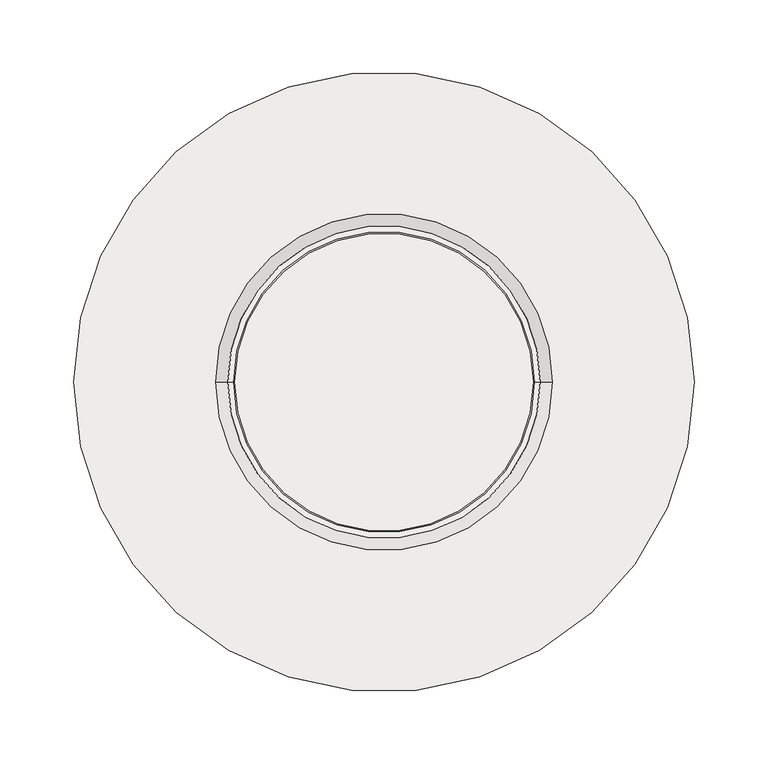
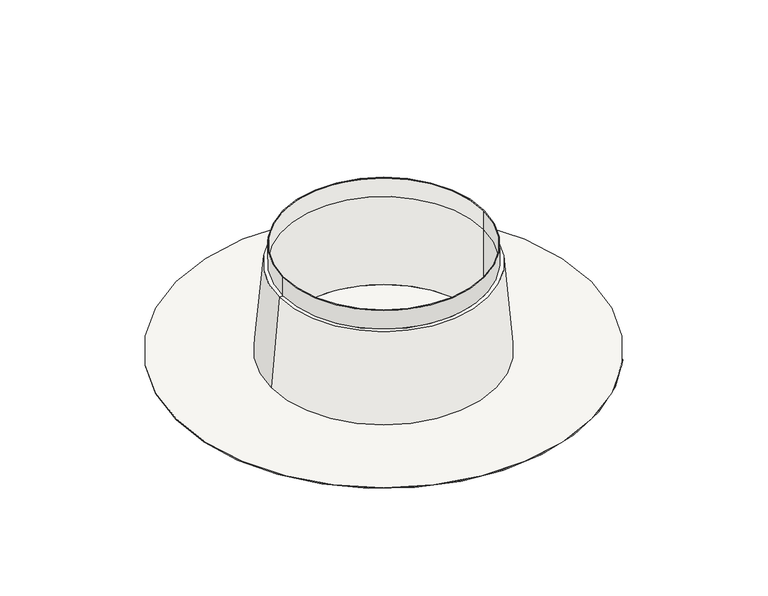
"""IFC4 building model written with IfcOpenShell, lengths in millimetres: covering geometry, NLRS_57_GM_WPB_weather slate flat roof_M&G : ø204."""

from ifc_helpers import new_model, si_unit, frame, origin, origin_with_axes, place, context, project, spatial, polyline, circle_curve, source, transform, mapped, element, save
from ifc_brep_helpers import plane_surface, cylinder_surface, revolved_surface, advanced_brep


def covering_65d68dae(model_context):
    return source(origin(), model_context, "Body", "AdvancedBrep", [
        advanced_brep(
        [(-210.0, 0.0, 1.0), (210.0, 0.0, 1.0), (-113.9739344, 0.0, 1.0), (113.9739344, 0.0, 1.0), (100.9, 0.0, 1.0), (-100.9, 0.0, 1.0), (-210.0, 0.0, 0.0), (210.0, 0.0, 0.0), (-105.75, 0.0, 95.0), (105.75, 0.0, 95.0), (-101.9, 0.0, 95.0), (101.9, 0.0, 95.0), (-100.9, 0.0, 95.0), (100.9, 0.0, 95.0), (-101.9, 0.0, 115.0), (101.9, 0.0, 115.0), (-100.9, 0.0, 115.0), (100.9, 0.0, 115.0)],
        [
            (0, 1, circle_curve(frame((0.0, 0.0, 1.0), z_axis=(0.0, 0.0, 1.0), x_axis=(1.0, 0.0, 0.0)), 210.0)),
            (1, 0, circle_curve(frame((0.0, 0.0, 1.0), z_axis=(0.0, 0.0, 1.0), x_axis=(1.0, 0.0, 0.0)), 210.0)),
            (2, 3, circle_curve(frame((0.0, 0.0, 1.0), z_axis=(0.0, 0.0, -1.0), x_axis=(-1.0, 0.0, 0.0)), 113.9739344)),
            (3, 2, circle_curve(frame((0.0, 0.0, 1.0), z_axis=(0.0, 0.0, -1.0), x_axis=(-1.0, 0.0, 0.0)), 113.9739344)),
            (4, 5, circle_curve(frame((0.0, 0.0, 1.0), z_axis=(0.0, 0.0, 1.0), x_axis=(-1.0, 0.0, 0.0)), 100.9)),
            (5, 4, circle_curve(frame((0.0, 0.0, 1.0), z_axis=(0.0, 0.0, 1.0), x_axis=(-1.0, 0.0, 0.0)), 100.9)),
            (6, 7, circle_curve(frame((0.0, 0.0, 0.0), z_axis=(0.0, 0.0, -1.0), x_axis=(1.0, 0.0, 0.0)), 210.0)),
            (7, 6, circle_curve(frame((0.0, 0.0, 0.0), z_axis=(0.0, 0.0, -1.0), x_axis=(1.0, 0.0, 0.0)), 210.0)),
            (0, 6),
            (7, 1),
            (2, 8),
            (8, 9, circle_curve(frame((0.0, 0.0, 95.0), z_axis=(0.0, 0.0, -1.0), x_axis=(-1.0, 0.0, 0.0)), 105.75)),
            (9, 3),
            (9, 8, circle_curve(frame((0.0, 0.0, 95.0), z_axis=(0.0, 0.0, -1.0), x_axis=(-1.0, 0.0, 0.0)), 105.75)),
            (8, 10),
            (10, 11, circle_curve(frame((0.0, 0.0, 95.0), z_axis=(0.0, 0.0, -1.0), x_axis=(1.0, 0.0, 0.0)), 101.9)),
            (11, 9),
            (11, 10, circle_curve(frame((0.0, 0.0, 95.0), z_axis=(0.0, 0.0, -1.0), x_axis=(1.0, 0.0, 0.0)), 101.9)),
            (12, 5),
            (4, 13),
            (13, 12, circle_curve(frame((0.0, 0.0, 95.0), z_axis=(0.0, 0.0, 1.0), x_axis=(-1.0, 0.0, 0.0)), 100.9)),
            (12, 13, circle_curve(frame((0.0, 0.0, 95.0), z_axis=(0.0, 0.0, 1.0), x_axis=(-1.0, 0.0, 0.0)), 100.9)),
            (14, 15, circle_curve(frame((0.0, 0.0, 115.0), z_axis=(0.0, 0.0, 1.0), x_axis=(1.0, 0.0, 0.0)), 101.9)),
            (15, 14, circle_curve(frame((0.0, 0.0, 115.0), z_axis=(0.0, 0.0, 1.0), x_axis=(1.0, 0.0, 0.0)), 101.9)),
            (16, 17, circle_curve(frame((0.0, 0.0, 115.0), z_axis=(0.0, 0.0, -1.0), x_axis=(1.0, 0.0, 0.0)), 100.9)),
            (17, 16, circle_curve(frame((0.0, 0.0, 115.0), z_axis=(0.0, 0.0, -1.0), x_axis=(1.0, 0.0, 0.0)), 100.9)),
            (14, 10),
            (11, 15),
            (16, 12),
            (13, 17),
        ],
        [
            plane_surface(frame((210.0, 0.0, 1.0), z_axis=(0.0, 0.0, 1.0), x_axis=(0.0, 1.0, 0.0))),
            plane_surface(frame((210.0, 0.0, 0.0), z_axis=(0.0, 0.0, -1.0), x_axis=(0.0, -1.0, 0.0))),
            cylinder_surface(origin_with_axes(), 210.0),
            revolved_surface(polyline([(-105.75, 0.0, 95.0), (-113.9739344, 0.0, 1.0)]), (0.0, 0.0, 2179.3150031), (0.0, 0.0, -1.0)),
            plane_surface(frame((0.0, 0.0, 95.0), z_axis=(0.0, 0.0, 1.0), x_axis=(-1.0, 0.0, 0.0))),
            revolved_surface(polyline([(-100.9, 0.0, 1.0), (-100.9, 0.0, 95.0)]), (0.0, 0.0, 2179.3150031), (0.0, 0.0, -1.0)),
            plane_surface(frame((101.9, 0.0, 115.0), z_axis=(0.0, 0.0, 1.0), x_axis=(0.0, 1.0, 0.0))),
            cylinder_surface(frame((0.0, 0.0, 95.0), z_axis=(0.0, 0.0, 1.0), x_axis=(1.0, 0.0, 0.0)), 101.9),
            revolved_surface(polyline([(100.9, 0.0, 95.0), (100.9, 0.0, 115.0)]), (0.0, 0.0, 0.0), (0.0, 0.0, -1.0)),
        ],
        [
            (0, [[1, 2], [3, 4]]),
            (0, [[5, 6]]),
            (1, [[7, 8]]),
            (2, [[-1, 9, -8, 10]]),
            (2, [[-2, -10, -7, -9]]),
            (3, [[11, 12, 13, -3]]),
            (3, [[-11, -4, -13, 14]]),
            (4, [[-12, 15, 16, 17]]),
            (4, [[-14, -17, 18, -15]]),
            (5, [[19, -5, 20, 21]]),
            (5, [[-19, 22, -20, -6]]),
            (6, [[23, 24], [25, 26]]),
            (7, [[-23, 27, -18, 28]]),
            (7, [[-24, -28, -16, -27]]),
            (8, [[-25, 29, -21, 30]]),
            (8, [[-26, -30, -22, -29]]),
        ],
    ),
    ])


if __name__ == "__main__":
    model = new_model("IFC4")
    model_context = context("Model", 3, world=origin())
    ifc_project = project(units=[si_unit("LENGTHUNIT", "METRE", prefix="MILLI")], contexts=[model_context])
    site = spatial("IfcSite", under=ifc_project)
    building = spatial("IfcBuilding", under=site)
    placement = place(None, origin())
    covering_shape = covering_65d68dae(model_context)
    element("IfcCovering", 1, ObjectType="NLRS_57_GM_WPB_weather slate flat roof_M&G : ø204", at=placement, inside=building, context=model_context, shape_type="MappedRepresentation", body=[
        mapped(covering_shape, transform((0.0, 0.0, 0.0), x_axis=(1.0, 0.0, 0.0), y_axis=(0.0, 1.0, 0.0), z_axis=(0.0, 0.0, 1.0))),
    ])
    save(model, "model.ifc")
